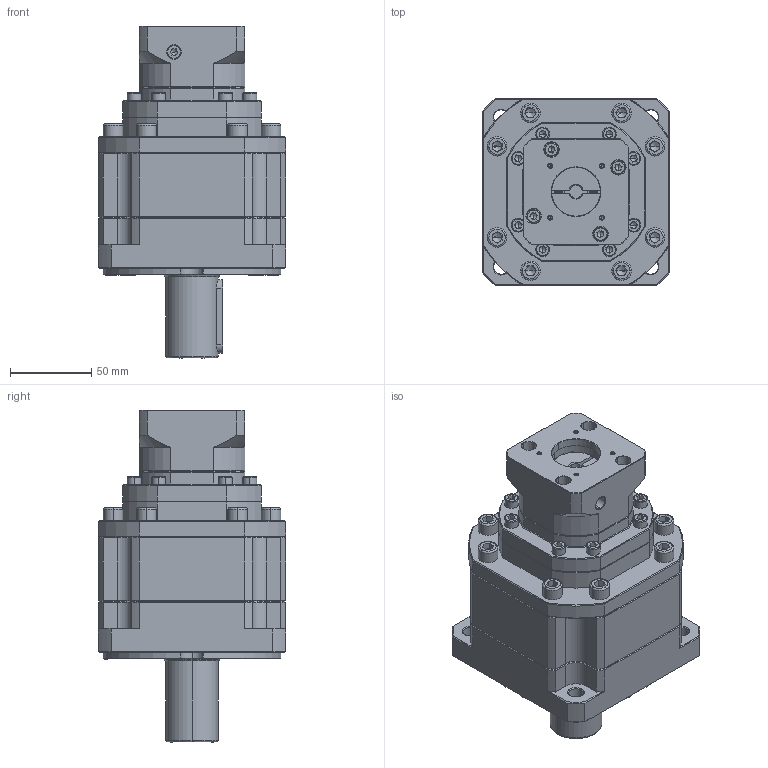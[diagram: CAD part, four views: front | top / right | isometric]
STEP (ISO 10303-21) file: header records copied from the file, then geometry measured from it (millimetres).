
FILE_DESCRIPTION (( 'STEP AP214' ), '1' );
FILE_NAME ('ZB115A-D32-L3-P2-8-30-45-M3.step', '2023-08-26T10:33:31', ( '' ), ( '' ), 'SwSTEP 2.0', 'SolidWorks 2016', '' );
FILE_SCHEMA (( 'AUTOMOTIVE_DESIGN' ));
Length unit declared in the file: millimetre
Products named in the file (1): ZB115A-D32-L3-P2-8-30-45-M3
Bounding box: 115 x 115 x 204 mm (x, y, z)
Volume: 1318054 mm3; surface area: 123284.8 mm2
Topology: 7 solids, 7 shells, 2558 faces, 6733 edges, 4289 vertices
Faces by surface type: plane 1306, bspline 443, cylinder 442, cone 345, torus 22
Entity records: 130960 total; most frequent: CARTESIAN_POINT 43172, ORIENTED_EDGE 13342, DIRECTION 10792, EDGE_CURVE 6671, LINE 4290, VECTOR 4290, VERTEX_POINT 4289, AXIS2_PLACEMENT_3D 3251
